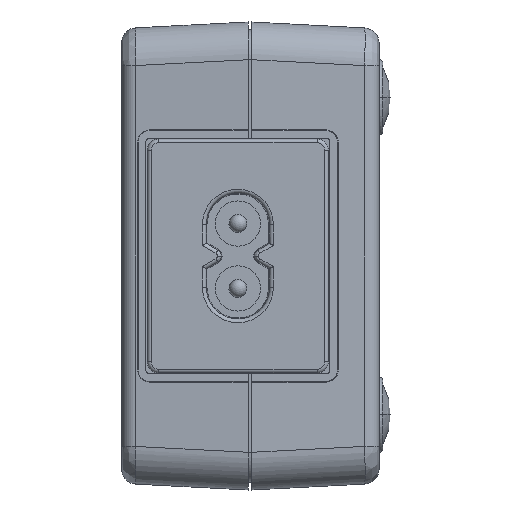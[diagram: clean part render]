
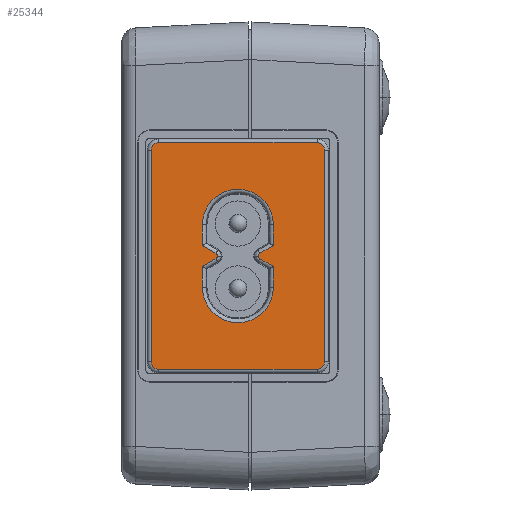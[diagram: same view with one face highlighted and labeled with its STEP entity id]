
A CAD part, left-side view. The second image highlights one B-rep face of the part: STEP entity #25344.
In plain terms, the highlighted planar face has unit normal (-1, 0, 0) as drawn and (0, 1, 0) by its records, which use the part's own axes.
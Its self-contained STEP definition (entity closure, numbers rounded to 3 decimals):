
#19427=DIRECTION('',(0.,0.,-1.));
#19428=VECTOR('',#19427,21.);
#19429=CARTESIAN_POINT('',(-72.773,0.685,10.5));
#19430=LINE('',#19429,#19428);
#19431=CARTESIAN_POINT('',(-71.773,0.685,-10.5));
#19432=DIRECTION('',(0.,-1.,0.));
#19433=DIRECTION('',(-1.,0.,0.));
#19434=AXIS2_PLACEMENT_3D('',#19431,#19432,#19433);
#19436=DIRECTION('',(1.,0.,0.));
#19437=VECTOR('',#19436,28.);
#19438=CARTESIAN_POINT('',(-71.773,0.685,-11.5));
#19439=LINE('',#19438,#19437);
#19440=CARTESIAN_POINT('',(-43.773,0.685,-10.5));
#19441=DIRECTION('',(0.,-1.,0.));
#19442=DIRECTION('',(0.,0.,-1.));
#19443=AXIS2_PLACEMENT_3D('',#19440,#19441,#19442);
#19445=DIRECTION('',(0.,0.,1.));
#19446=VECTOR('',#19445,21.);
#19447=CARTESIAN_POINT('',(-42.773,0.685,-10.5));
#19448=LINE('',#19447,#19446);
#19449=CARTESIAN_POINT('',(-43.773,0.685,10.5));
#19450=DIRECTION('',(0.,-1.,0.));
#19451=DIRECTION('',(1.,0.,0.));
#19452=AXIS2_PLACEMENT_3D('',#19449,#19450,#19451);
#19454=DIRECTION('',(-1.,0.,0.));
#19455=VECTOR('',#19454,28.);
#19456=CARTESIAN_POINT('',(-43.773,0.685,11.5));
#19457=LINE('',#19456,#19455);
#19458=CARTESIAN_POINT('',(-71.773,0.685,10.5));
#19459=DIRECTION('',(0.,-1.,0.));
#19460=DIRECTION('',(0.,0.,1.));
#19461=AXIS2_PLACEMENT_3D('',#19458,#19459,#19460);
#19463=DIRECTION('',(-0.5,0.,0.866));
#19464=VECTOR('',#19463,2.074);
#19465=CARTESIAN_POINT('',(-56.383,0.685,
-4.692));
#19466=LINE('',#19465,#19464);
#19467=CARTESIAN_POINT('',(-57.773,0.685,-3.1));
#19468=DIRECTION('',(0.,-1.,0.));
#19469=DIRECTION('',(0.866,0.,0.5));
#19470=AXIS2_PLACEMENT_3D('',#19467,#19468,#19469);
#19472=CARTESIAN_POINT('',(-57.773,0.685,-3.1));
#19473=DIRECTION('',(0.,-1.,0.));
#19474=DIRECTION('',(0.,0.,1.));
#19475=AXIS2_PLACEMENT_3D('',#19472,#19473,#19474);
#19477=DIRECTION('',(-0.5,0.,-0.866));
#19478=VECTOR('',#19477,2.074);
#19479=CARTESIAN_POINT('',(-58.126,0.685,
-2.896));
#19480=LINE('',#19479,#19478);
#19481=CARTESIAN_POINT('',(-61.923,0.685,0.));
#19482=DIRECTION('',(0.,1.,0.));
#19483=DIRECTION('',(0.,0.,-1.));
#19484=AXIS2_PLACEMENT_3D('',#19481,#19482,#19483);
#19486=DIRECTION('',(0.5,0.,-0.866));
#19487=VECTOR('',#19486,2.074);
#19488=CARTESIAN_POINT('',(-59.163,0.685,
4.692));
#19489=LINE('',#19488,#19487);
#19490=CARTESIAN_POINT('',(-57.773,0.685,3.1));
#19491=DIRECTION('',(0.,-1.,0.));
#19492=DIRECTION('',(-0.866,0.,-0.5));
#19493=AXIS2_PLACEMENT_3D('',#19490,#19491,#19492);
#19495=CARTESIAN_POINT('',(-57.773,0.685,3.1));
#19496=DIRECTION('',(0.,-1.,0.));
#19497=DIRECTION('',(0.,0.,-1.));
#19498=AXIS2_PLACEMENT_3D('',#19495,#19496,#19497);
#19500=DIRECTION('',(0.5,0.,0.866));
#19501=VECTOR('',#19500,2.074);
#19502=CARTESIAN_POINT('',(-57.42,0.685,
2.896));
#19503=LINE('',#19502,#19501);
#19504=CARTESIAN_POINT('',(-53.623,0.685,0.));
#19505=DIRECTION('',(0.,1.,0.));
#19506=DIRECTION('',(0.,0.,1.));
#19507=AXIS2_PLACEMENT_3D('',#19504,#19505,#19506);
#19519=DIRECTION('',(1.,0.,0.));
#19520=VECTOR('',#19519,2.76);
#19521=CARTESIAN_POINT('',(-56.383,0.685,
-4.692));
#19522=LINE('',#19521,#19520);
#19533=DIRECTION('',(-1.,0.,0.));
#19534=VECTOR('',#19533,2.76);
#19535=CARTESIAN_POINT('',(-53.623,0.685,
4.692));
#19536=LINE('',#19535,#19534);
#19624=DIRECTION('',(1.,0.,0.));
#19625=VECTOR('',#19624,2.76);
#19626=CARTESIAN_POINT('',(-61.923,0.685,
-4.692));
#19627=LINE('',#19626,#19625);
#19652=DIRECTION('',(-1.,0.,0.));
#19653=VECTOR('',#19652,2.76);
#19654=CARTESIAN_POINT('',(-59.163,0.685,
4.692));
#19655=LINE('',#19654,#19653);
#23765=CARTESIAN_POINT('',(-71.773,0.685,-11.5));
#23766=CARTESIAN_POINT('',(-43.773,0.685,-11.5));
#23767=VERTEX_POINT('',#23765);
#23768=VERTEX_POINT('',#23766);
#23769=CARTESIAN_POINT('',(-42.773,0.685,-10.5));
#23770=VERTEX_POINT('',#23769);
#23771=CARTESIAN_POINT('',(-42.773,0.685,10.5));
#23772=VERTEX_POINT('',#23771);
#23773=CARTESIAN_POINT('',(-43.773,0.685,11.5));
#23774=VERTEX_POINT('',#23773);
#23775=CARTESIAN_POINT('',(-71.773,0.685,11.5));
#23776=VERTEX_POINT('',#23775);
#23777=CARTESIAN_POINT('',(-72.773,0.685,10.5));
#23778=VERTEX_POINT('',#23777);
#23779=CARTESIAN_POINT('',(-72.773,0.685,-10.5));
#23780=VERTEX_POINT('',#23779);
#23781=CARTESIAN_POINT('',(-56.383,0.685,
-4.692));
#23782=CARTESIAN_POINT('',(-57.42,0.685,
-2.896));
#23783=VERTEX_POINT('',#23781);
#23784=VERTEX_POINT('',#23782);
#23785=CARTESIAN_POINT('',(-57.773,0.685,
-2.692));
#23786=VERTEX_POINT('',#23785);
#23787=CARTESIAN_POINT('',(-58.126,0.685,
-2.896));
#23788=VERTEX_POINT('',#23787);
#23789=CARTESIAN_POINT('',(-59.163,0.685,
-4.692));
#23790=VERTEX_POINT('',#23789);
#23791=CARTESIAN_POINT('',(-61.923,0.685,
-4.692));
#23792=CARTESIAN_POINT('',(-61.923,0.685,
4.692));
#23793=VERTEX_POINT('',#23791);
#23794=VERTEX_POINT('',#23792);
#23795=CARTESIAN_POINT('',(-59.163,0.685,
4.692));
#23796=CARTESIAN_POINT('',(-58.126,0.685,
2.896));
#23797=VERTEX_POINT('',#23795);
#23798=VERTEX_POINT('',#23796);
#23799=CARTESIAN_POINT('',(-57.773,0.685,
2.692));
#23800=VERTEX_POINT('',#23799);
#23801=CARTESIAN_POINT('',(-57.42,0.685,
2.896));
#23802=VERTEX_POINT('',#23801);
#23803=CARTESIAN_POINT('',(-56.383,0.685,
4.692));
#23804=VERTEX_POINT('',#23803);
#23805=CARTESIAN_POINT('',(-53.623,0.685,
4.692));
#23806=CARTESIAN_POINT('',(-53.623,0.685,
-4.692));
#23807=VERTEX_POINT('',#23805);
#23808=VERTEX_POINT('',#23806);
#25299=CARTESIAN_POINT('',(-57.773,0.685,0.));
#25300=DIRECTION('',(0.,1.,0.));
#25301=DIRECTION('',(0.,0.,1.));
#25302=AXIS2_PLACEMENT_3D('',#25299,#25300,#25301);
#25303=PLANE('',#25302);
#25304=ORIENTED_EDGE('',*,*,#25279,.T.);
#25305=ORIENTED_EDGE('',*,*,#25292,.T.);
#25306=ORIENTED_EDGE('',*,*,#25194,.T.);
#25307=ORIENTED_EDGE('',*,*,#25209,.T.);
#25308=ORIENTED_EDGE('',*,*,#25225,.T.);
#25309=ORIENTED_EDGE('',*,*,#25239,.T.);
#25310=ORIENTED_EDGE('',*,*,#25253,.T.);
#25311=ORIENTED_EDGE('',*,*,#25265,.T.);
#25312=EDGE_LOOP('',(#25304,#25305,#25306,#25307,#25308,#25309,#25310,#25311));
#25313=FACE_OUTER_BOUND('',#25312,.F.);
#25315=ORIENTED_EDGE('',*,*,#25314,.T.);
#25317=ORIENTED_EDGE('',*,*,#25316,.T.);
#25319=ORIENTED_EDGE('',*,*,#25318,.T.);
#25321=ORIENTED_EDGE('',*,*,#25320,.T.);
#25323=ORIENTED_EDGE('',*,*,#25322,.F.);
#25325=ORIENTED_EDGE('',*,*,#25324,.T.);
#25327=ORIENTED_EDGE('',*,*,#25326,.F.);
#25329=ORIENTED_EDGE('',*,*,#25328,.T.);
#25331=ORIENTED_EDGE('',*,*,#25330,.T.);
#25333=ORIENTED_EDGE('',*,*,#25332,.T.);
#25335=ORIENTED_EDGE('',*,*,#25334,.T.);
#25337=ORIENTED_EDGE('',*,*,#25336,.F.);
#25339=ORIENTED_EDGE('',*,*,#25338,.T.);
#25341=ORIENTED_EDGE('',*,*,#25340,.F.);
#25342=EDGE_LOOP('',(#25315,#25317,#25319,#25321,#25323,#25325,#25327,#25329,
#25331,#25333,#25335,#25337,#25339,#25341));
#25343=FACE_BOUND('',#25342,.F.);
#19435=CIRCLE('',#19434,1.);
#19444=CIRCLE('',#19443,1.);
#19453=CIRCLE('',#19452,1.);
#19462=CIRCLE('',#19461,1.);
#19471=CIRCLE('',#19470,0.408);
#19476=CIRCLE('',#19475,0.408);
#19485=CIRCLE('',#19484,4.692);
#19494=CIRCLE('',#19493,0.408);
#19499=CIRCLE('',#19498,0.408);
#19508=CIRCLE('',#19507,4.692);
#25194=EDGE_CURVE('',#23767,#23768,#19439,.T.);
#25209=EDGE_CURVE('',#23768,#23770,#19444,.T.);
#25225=EDGE_CURVE('',#23770,#23772,#19448,.T.);
#25239=EDGE_CURVE('',#23772,#23774,#19453,.T.);
#25253=EDGE_CURVE('',#23774,#23776,#19457,.T.);
#25265=EDGE_CURVE('',#23776,#23778,#19462,.T.);
#25279=EDGE_CURVE('',#23778,#23780,#19430,.T.);
#25292=EDGE_CURVE('',#23780,#23767,#19435,.T.);
#25314=EDGE_CURVE('',#23783,#23784,#19466,.T.);
#25316=EDGE_CURVE('',#23784,#23786,#19471,.T.);
#25318=EDGE_CURVE('',#23786,#23788,#19476,.T.);
#25320=EDGE_CURVE('',#23788,#23790,#19480,.T.);
#25322=EDGE_CURVE('',#23793,#23790,#19627,.T.);
#25324=EDGE_CURVE('',#23793,#23794,#19485,.T.);
#25326=EDGE_CURVE('',#23797,#23794,#19655,.T.);
#25328=EDGE_CURVE('',#23797,#23798,#19489,.T.);
#25330=EDGE_CURVE('',#23798,#23800,#19494,.T.);
#25332=EDGE_CURVE('',#23800,#23802,#19499,.T.);
#25334=EDGE_CURVE('',#23802,#23804,#19503,.T.);
#25336=EDGE_CURVE('',#23807,#23804,#19536,.T.);
#25338=EDGE_CURVE('',#23807,#23808,#19508,.T.);
#25340=EDGE_CURVE('',#23783,#23808,#19522,.T.);
#25344=ADVANCED_FACE('',(#25313,#25343),#25303,.T.);
